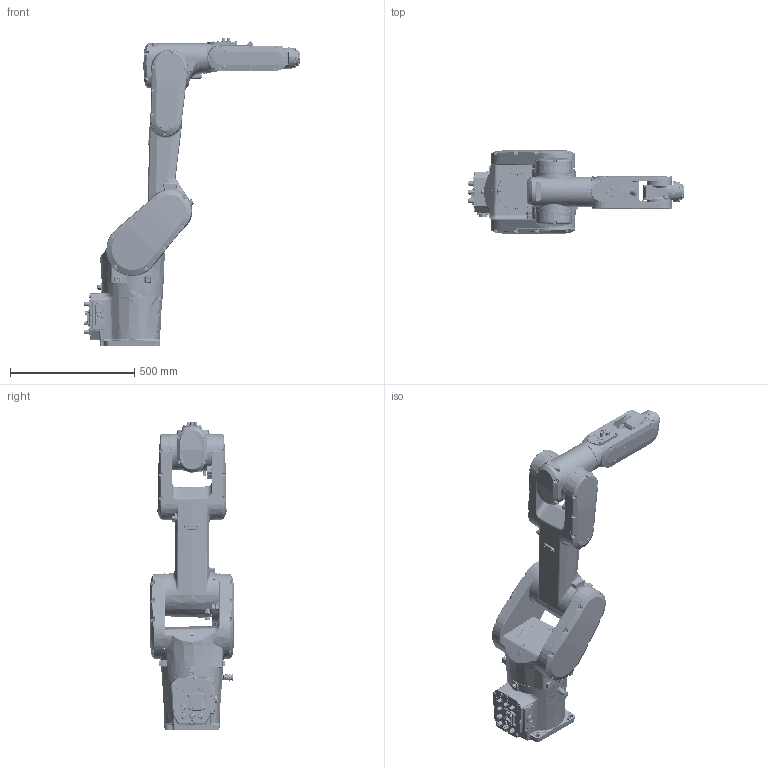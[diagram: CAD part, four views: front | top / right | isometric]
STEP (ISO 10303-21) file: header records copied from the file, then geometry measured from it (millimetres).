
FILE_DESCRIPTION (( 'STEP AP214' ), '1' );
FILE_NAME ('IRB1300 Type A_10Kg-1150-IP40IP67CR-STD_OC_00_asm.STEP', '2026-05-19T12:43:27', ( '' ), ( '' ), 'SwSTEP 2.0', 'SolidWorks 2024', '' );
FILE_SCHEMA (( 'AUTOMOTIVE_DESIGN' ));
Length unit declared in the file: millimetre
Products named in the file (8): IRB1300 Type A_10Kg-1150-IP40IP67CR-STD_OC_00_link1; IRB1300 Type A_10Kg-1150-IP40IP67CR-STD_OC_00_link4; IRB1300 Type A_10Kg-1150-IP40IP67CR-STD_OC_00_link3; IRB1300 Type A_10Kg-1150-IP40IP67CR-STD_OC_00_link6; IRB1300 Type A_10Kg-1150-IP40IP67CR-STD_OC_00_asm; IRB1300 Type A_10Kg-1150-IP40IP67CR-STD_OC_00_link2; IRB1300 Type A_10Kg-1150-IP40IP67CR-STD_OC_00_link5; IRB1300 Type A_10Kg-1150-IP40IP67CR-STD_OC_00_link0
Assembly tree (7 placements, depth 2):
  IRB1300 Type A_10Kg-1150-IP40IP67CR-STD_OC_00_asm
    IRB1300 Type A_10Kg-1150-IP40IP67CR-STD_OC_00_link0
    IRB1300 Type A_10Kg-1150-IP40IP67CR-STD_OC_00_link1
    IRB1300 Type A_10Kg-1150-IP40IP67CR-STD_OC_00_link2
    IRB1300 Type A_10Kg-1150-IP40IP67CR-STD_OC_00_link3
    IRB1300 Type A_10Kg-1150-IP40IP67CR-STD_OC_00_link4
    IRB1300 Type A_10Kg-1150-IP40IP67CR-STD_OC_00_link5
    IRB1300 Type A_10Kg-1150-IP40IP67CR-STD_OC_00_link6
Bounding box: 869 x 340 x 1240.73 mm (x, y, z)
Volume: 53699986.8 mm3; surface area: 1979308.1 mm2
Topology: 7 solids, 18 shells, 6881 faces, 16865 edges, 10294 vertices
Faces by surface type: plane 2016, bspline 1949, cylinder 1651, cone 615, torus 534, sphere 116
Entity records: 321853 total; most frequent: CARTESIAN_POINT 175128, ORIENTED_EDGE 33350, DIRECTION 26269, EDGE_CURVE 16675, VERTEX_POINT 10289, AXIS2_PLACEMENT_3D 10058, EDGE_LOOP 7352, FACE_OUTER_BOUND 6881
